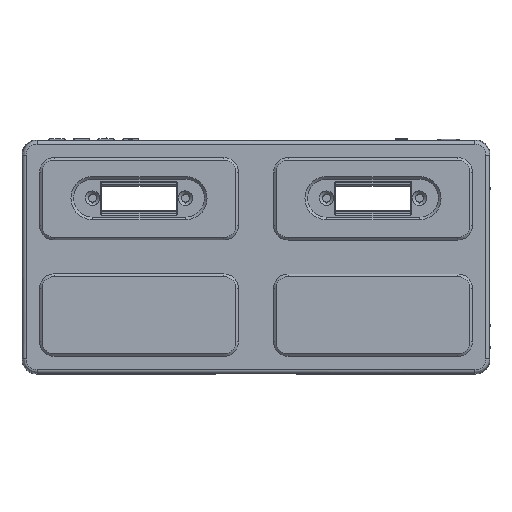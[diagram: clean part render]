
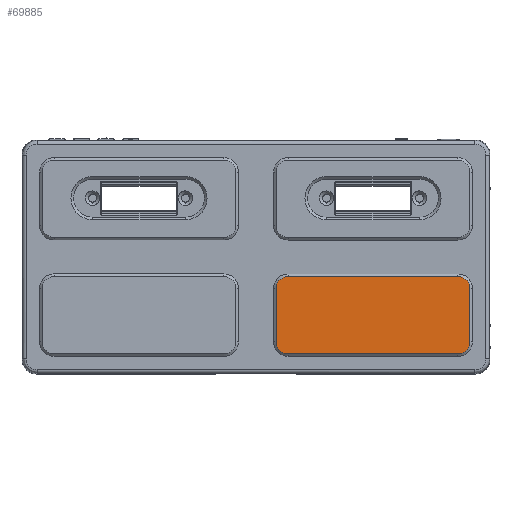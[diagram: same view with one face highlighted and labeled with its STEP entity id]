
A CAD part, front view. The second image highlights one B-rep face of the part: STEP entity #69885.
In plain terms, the highlighted planar face has unit normal (0, -1, 0) as drawn and (0, 1, 0) by its records, which use the part's own axes.
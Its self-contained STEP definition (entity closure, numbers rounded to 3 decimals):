
#69616 = VERTEX_POINT ( 'NONE', #100444 ) ;
#69620 = EDGE_CURVE ( 'NONE', #69797, #69616, #100440, .T. ) ;
#69637 = VERTEX_POINT ( 'NONE', #100409 ) ;
#69642 = EDGE_CURVE ( 'NONE', #69645, #69637, #100406, .T. ) ;
#69645 = VERTEX_POINT ( 'NONE', #100399 ) ;
#69707 = VERTEX_POINT ( 'NONE', #100561 ) ;
#69709 = EDGE_CURVE ( 'NONE', #69750, #69707, #100556, .T. ) ;
#69724 = VERTEX_POINT ( 'NONE', #100528 ) ;
#69728 = EDGE_CURVE ( 'NONE', #69773, #69724, #100524, .T. ) ;
#69750 = VERTEX_POINT ( 'NONE', #100609 ) ;
#69756 = EDGE_CURVE ( 'NONE', #69724, #69750, #100608, .T. ) ;
#69773 = VERTEX_POINT ( 'NONE', #100593 ) ;
#69775 = EDGE_CURVE ( 'NONE', #69616, #69773, #100591, .T. ) ;
#69797 = VERTEX_POINT ( 'NONE', #100648 ) ;
#69801 = EDGE_CURVE ( 'NONE', #69637, #69797, #100646, .T. ) ;
#69824 = ORIENTED_EDGE ( 'NONE', *, *, #69620, .T. ) ;
#69826 = ORIENTED_EDGE ( 'NONE', *, *, #69775, .T. ) ;
#69828 = ORIENTED_EDGE ( 'NONE', *, *, #69728, .T. ) ;
#69830 = ORIENTED_EDGE ( 'NONE', *, *, #69756, .T. ) ;
#69877 = EDGE_CURVE ( 'NONE', #69707, #69645, #100649, .T. ) ;
#69885 = ADVANCED_FACE ( 'NONE', ( #100702 ), #100697, .T. ) ;
#69888 = EDGE_LOOP ( 'NONE', ( #69889, #69891, #69894, #69897, #69824, #69826, #69828, #69830 ) ) ;
#69889 = ORIENTED_EDGE ( 'NONE', *, *, #69709, .T. ) ;
#69891 = ORIENTED_EDGE ( 'NONE', *, *, #69877, .T. ) ;
#69894 = ORIENTED_EDGE ( 'NONE', *, *, #69642, .T. ) ;
#69897 = ORIENTED_EDGE ( 'NONE', *, *, #69801, .T. ) ;
#100399 = CARTESIAN_POINT ( 'NONE',  ( 59.184, 9.4, -0.865 ) ) ;
#100402 = DIRECTION ( 'NONE',  ( 0., 0., -1. ) ) ;
#100404 = VECTOR ( 'NONE', #100402, 1000. ) ;
#100405 = CARTESIAN_POINT ( 'NONE',  ( 59.184, 9.4, 15.67 ) ) ;
#100406 = LINE ( 'NONE', #100405, #100404 ) ;
#100409 = CARTESIAN_POINT ( 'NONE',  ( 59.184, 9.4, -15.65 ) ) ;
#100435 = DIRECTION ( 'NONE',  ( -1., 0., 0. ) ) ;
#100436 = VECTOR ( 'NONE', #100435, 1000. ) ;
#100438 = CARTESIAN_POINT ( 'NONE',  ( 0., 9.4, -18.964 ) ) ;
#100440 = LINE ( 'NONE', #100438, #100436 ) ;
#100444 = CARTESIAN_POINT ( 'NONE',  ( 8.9, 9.4, -18.964 ) ) ;
#100520 = DIRECTION ( 'NONE',  ( 0., 0., 1. ) ) ;
#100522 = VECTOR ( 'NONE', #100520, 1000. ) ;
#100523 = CARTESIAN_POINT ( 'NONE',  ( 5.586, 9.4, 15.67 ) ) ;
#100524 = LINE ( 'NONE', #100523, #100522 ) ;
#100528 = CARTESIAN_POINT ( 'NONE',  ( 5.586, 9.4, -0.865 ) ) ;
#100551 = DIRECTION ( 'NONE',  ( 1., 0., 0. ) ) ;
#100552 = VECTOR ( 'NONE', #100551, 1000. ) ;
#100554 = CARTESIAN_POINT ( 'NONE',  ( 0., 9.4, 2.449 ) ) ;
#100556 = LINE ( 'NONE', #100554, #100552 ) ;
#100561 = CARTESIAN_POINT ( 'NONE',  ( 55.87, 9.4, 2.449 ) ) ;
#100585 = DIRECTION ( 'NONE',  ( 0., 0., -1. ) ) ;
#100587 = DIRECTION ( 'NONE',  ( 0., 1., 0. ) ) ;
#100588 = CARTESIAN_POINT ( 'NONE',  ( 8.9, 9.4, -15.65 ) ) ;
#100590 = AXIS2_PLACEMENT_3D ( 'NONE', #100588, #100587, #100585 ) ;
#100591 = CIRCLE ( 'NONE', #100590, 3.314 ) ;
#100593 = CARTESIAN_POINT ( 'NONE',  ( 5.586, 9.4, -15.65 ) ) ;
#100604 = DIRECTION ( 'NONE',  ( 0., 0., -1. ) ) ;
#100605 = DIRECTION ( 'NONE',  ( 0., 1., 0. ) ) ;
#100606 = CARTESIAN_POINT ( 'NONE',  ( 8.9, 9.4, -0.865 ) ) ;
#100607 = AXIS2_PLACEMENT_3D ( 'NONE', #100606, #100605, #100604 ) ;
#100608 = CIRCLE ( 'NONE', #100607, 3.314 ) ;
#100609 = CARTESIAN_POINT ( 'NONE',  ( 8.9, 9.4, 2.449 ) ) ;
#100642 = DIRECTION ( 'NONE',  ( 0., 0., -1. ) ) ;
#100643 = DIRECTION ( 'NONE',  ( 0., 1., 0. ) ) ;
#100644 = CARTESIAN_POINT ( 'NONE',  ( 55.87, 9.4, -15.65 ) ) ;
#100645 = AXIS2_PLACEMENT_3D ( 'NONE', #100644, #100643, #100642 ) ;
#100646 = CIRCLE ( 'NONE', #100645, 3.314 ) ;
#100648 = CARTESIAN_POINT ( 'NONE',  ( 55.87, 9.4, -18.964 ) ) ;
#100649 = CIRCLE ( 'NONE', #100701, 3.314 ) ;
#100693 = DIRECTION ( 'NONE',  ( 0., 0., 1. ) ) ;
#100694 = DIRECTION ( 'NONE',  ( 0., 1., 0. ) ) ;
#100695 = CARTESIAN_POINT ( 'NONE',  ( 0., 9.4, 15.67 ) ) ;
#100696 = AXIS2_PLACEMENT_3D ( 'NONE', #100695, #100694, #100693 ) ;
#100697 = PLANE ( 'NONE',  #100696 ) ;
#100698 = DIRECTION ( 'NONE',  ( 0., 0., -1. ) ) ;
#100699 = DIRECTION ( 'NONE',  ( 0., 1., 0. ) ) ;
#100700 = CARTESIAN_POINT ( 'NONE',  ( 55.87, 9.4, -0.865 ) ) ;
#100701 = AXIS2_PLACEMENT_3D ( 'NONE', #100700, #100699, #100698 ) ;
#100702 = FACE_OUTER_BOUND ( 'NONE', #69888, .T. ) ;
